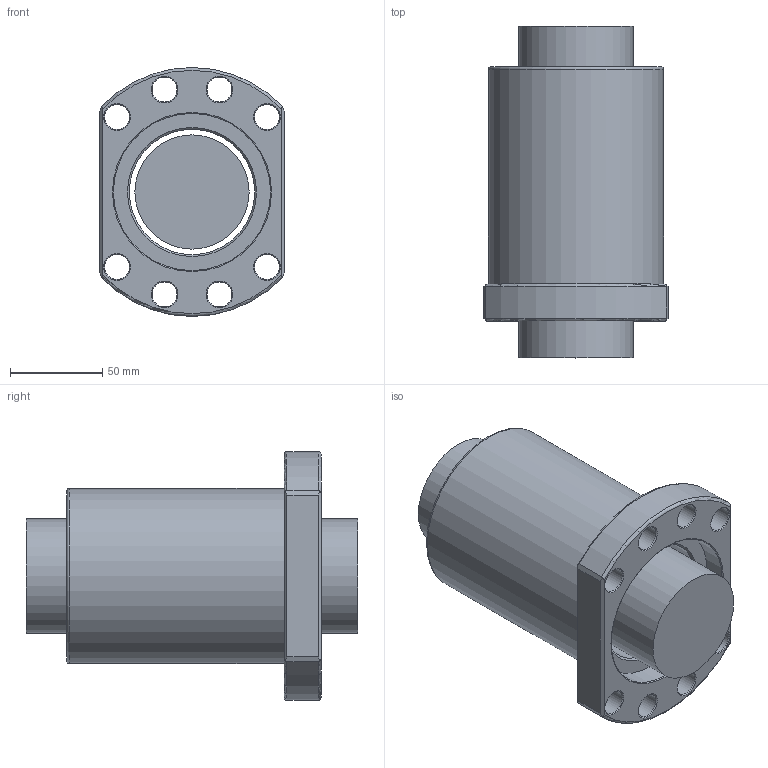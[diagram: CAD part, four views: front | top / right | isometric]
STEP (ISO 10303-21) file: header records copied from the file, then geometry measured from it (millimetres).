
FILE_DESCRIPTION(/* description */ (''),/* implementation_level */ '2;1');
FILE_NAME(/* name */ '6320.prt.step',/* time_stamp */ '2008-12-05T16:32:39+08:00',/* author */ (''),/* organization */ (''),/* preprocessor_version */ 'ST-DEVELOPER v11',/* originating_system */ 'SIEMENS UGS NX 6.0',/* authorisation */ '');
FILE_SCHEMA (('AUTOMOTIVE_DESIGN { 1 0 10303 214 1 1 1 1 }'));
Length unit declared in the file: millimetre
Products named in the file (1): 6320
Bounding box: 100 x 180 x 135 mm (x, y, z)
Volume: 1045214.8 mm3; surface area: 135352.3 mm2
Topology: 2 solids, 2 shells, 57 faces, 132 edges, 82 vertices
Faces by surface type: cone 18, plane 17, cylinder 15, torus 7
Full cylindrical faces by diameter (mm): 13.5 x8, 61.95 x1, 68 x1, 85.3 x2, 95 x1
Entity records: 1694 total; most frequent: CARTESIAN_POINT 472, DIRECTION 250, ORIENTED_EDGE 190, AXIS2_PLACEMENT_3D 113, EDGE_LOOP 112, EDGE_CURVE 95, FACE_BOUND 94, VERTEX_POINT 79
